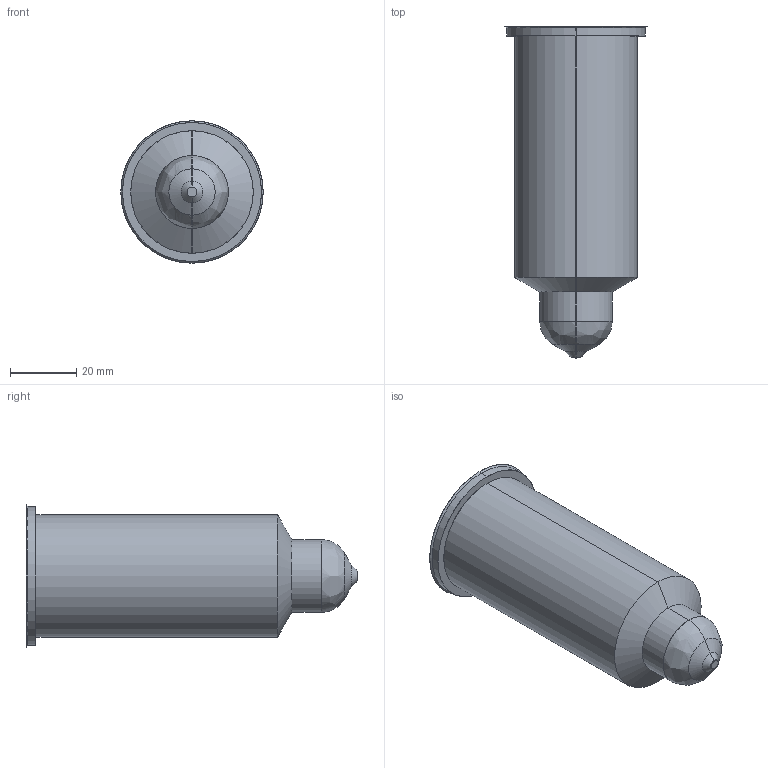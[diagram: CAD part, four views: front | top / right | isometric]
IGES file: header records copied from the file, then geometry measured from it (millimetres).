
Start section: SolidWorks IGES file using analytic representation for surfaces
Global section: file name: C:\Users\luca.EMPAD\Desktop\TEM\Sede UGDL3613-M-A C-97 L-115 Ød-3.0.IGS; native system: SolidWorks 2012; preprocessor: SolidWorks 2012; author: luca; date: 120330.161917; units: millimetre
Bounding box: 43 x 100.3 x 43 mm (x, y, z)
Surface area: 12780.6 mm2 (no closed solid volume)
Topology: 0 solids, 0 shells, 21 faces, 296 edges, 296 vertices
Faces by surface type: revolution 16, bspline 5
